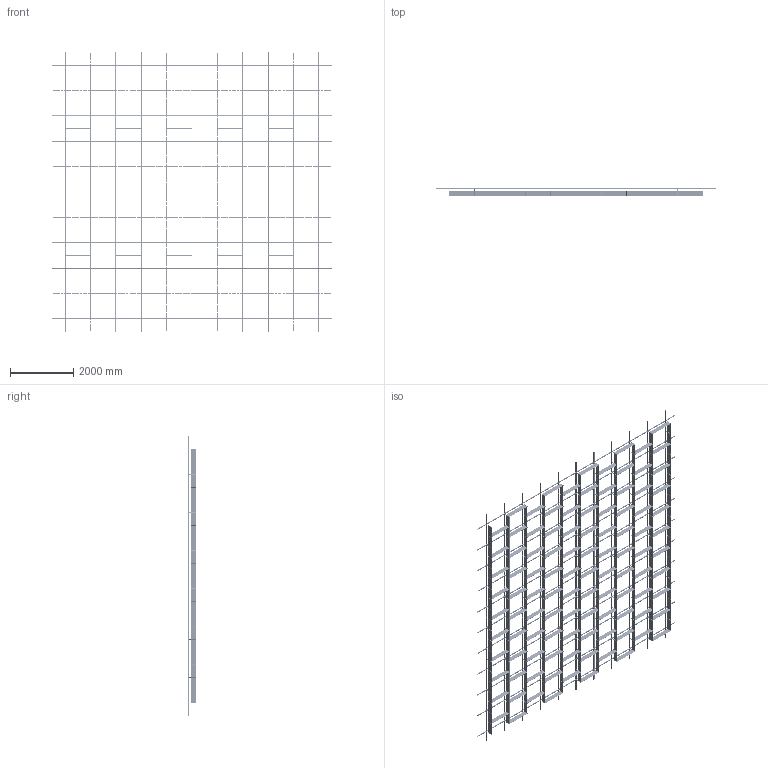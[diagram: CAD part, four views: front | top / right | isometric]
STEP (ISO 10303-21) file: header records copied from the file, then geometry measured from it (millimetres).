
FILE_DESCRIPTION (( 'STEP AP214' ), '1' );
FILE_NAME ('OPT_Var6.STEP', '2024-04-26T06:38:56', ( '' ), ( '' ), 'SwSTEP 2.0', 'SolidWorks 2020', '' );
FILE_SCHEMA (( 'AUTOMOTIVE_DESIGN' ));
Length unit declared in the file: millimetre
Products named in the file (5): SS.SEMA.2400 - Ñèìà-ïðîôèëü; Ñèñòåìà â çîíå 8000õ8000; Varp6; SS.SEMA.2400 - Ñèìà-ïðîôèëü — îáðåçàí 1600; OPT_Var6
Assembly tree (90 placements, depth 3):
  OPT_Var6
    Ñèñòåìà â çîíå 8000õ8000
      SS.SEMA.2400 - Ñèìà-ïðîôèëü  x66
      SS.SEMA.2400 - Ñèìà-ïðîôèëü — îáðåçàí 1600  x22
    Varp6
Bounding box: 8800 x 253 x 8800 mm (x, y, z)
Volume: 216896628.8 mm3; surface area: 87034261 mm2
Topology: 1337 solids, 1337 shells, 23446 faces, 60908 edges, 40136 vertices
Faces by surface type: cylinder 13706, plane 9740
Entity records: 194902 total; most frequent: CARTESIAN_POINT 60892, ORIENTED_EDGE 28664, DIRECTION 16246, EDGE_CURVE 14332, B_SPLINE_CURVE_WITH_KNOTS 9648, VERTEX_POINT 9544, AXIS2_PLACEMENT_3D 7874, EDGE_LOOP 7452
